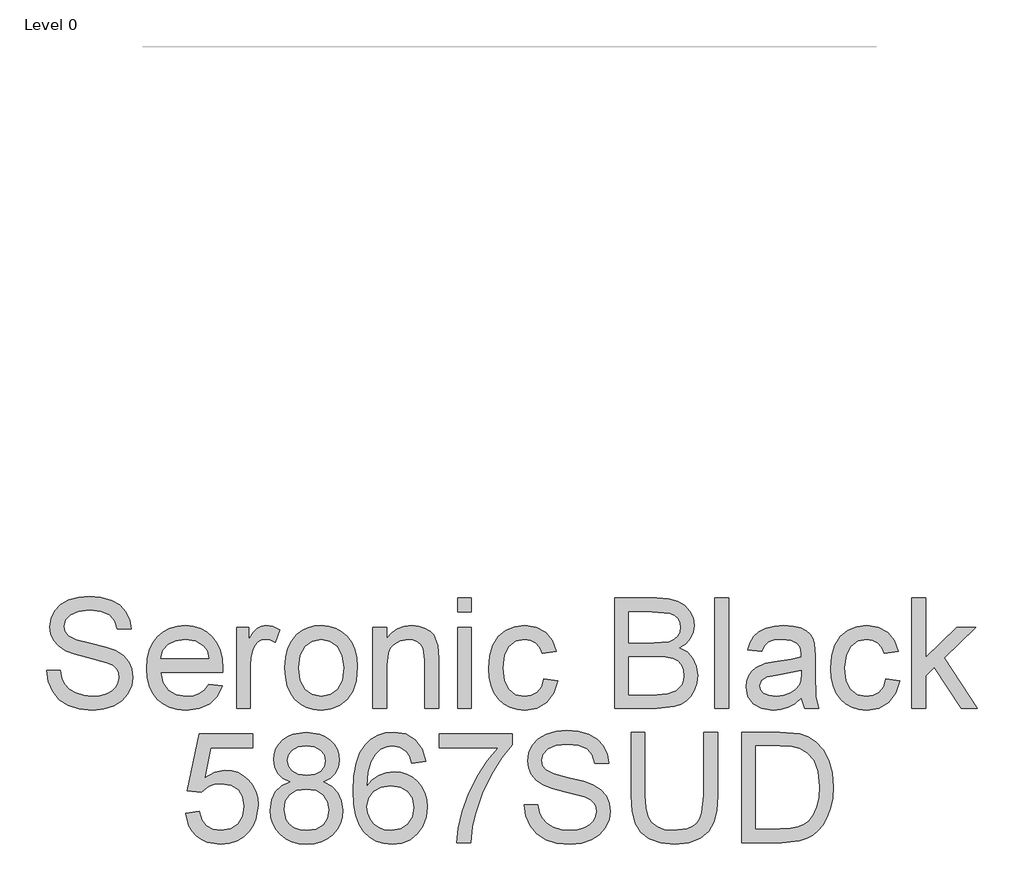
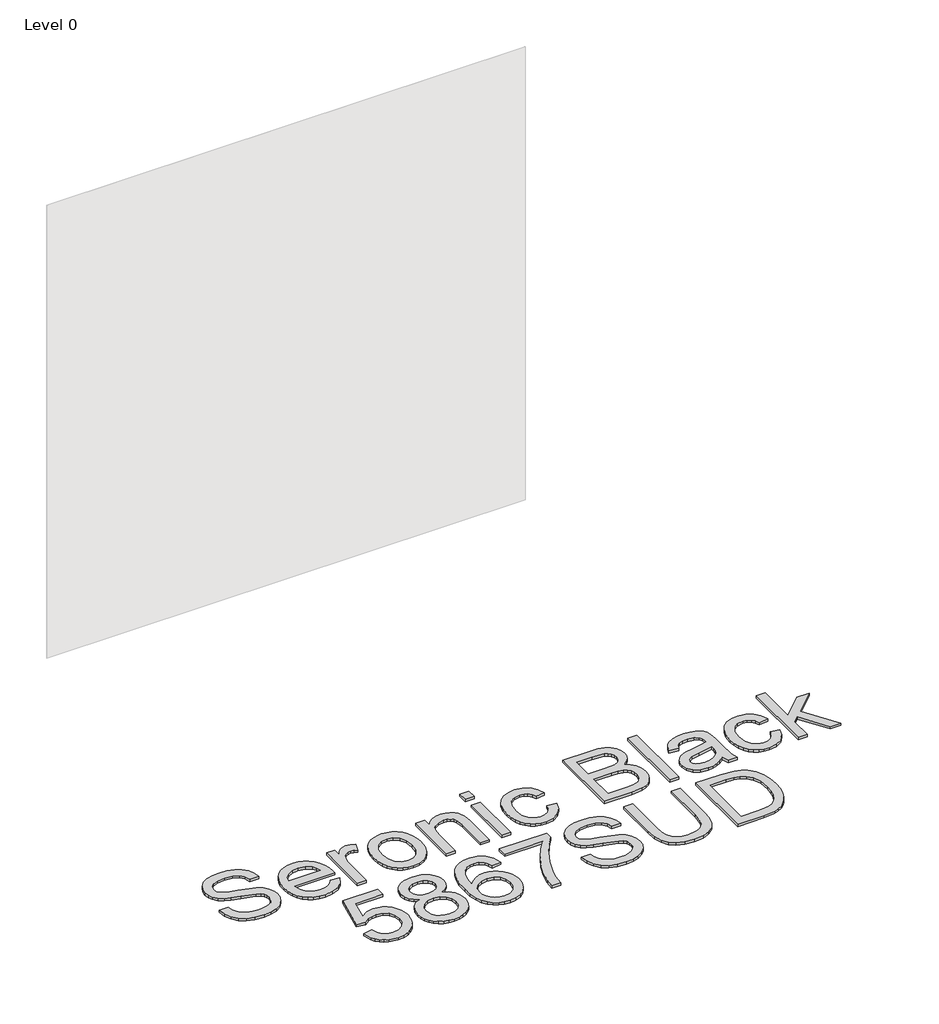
# One storey, part 8 of 29: 1 proxy.
"""IFC4 building model written with IfcOpenShell, lengths in millimetres."""

import ifcopenshell
import ifcopenshell.guid

model = None  # the IFC model being written
_history = None  # IfcOwnerHistory: only IFC2X3 demands one
_inside = {}  # id of a spatial element -> (the spatial element, [elements in it])
_under = {}  # id of a project, library or spatial element -> (it, [spatial elements below it])
_declared = {}  # id of a project -> (the project, [libraries it declares])
_typed = {}  # id of a type object -> (the type object, [elements of that type])
_made_of = {}  # id of a material, layer set ... -> (it, [elements and type objects made of it])


def new_model(schema):
    """Start an empty IFC model of exactly this schema.

    Asked for "IFC4X3", IfcOpenShell would pick the latest addendum, in which some entities
    have other attributes; the version numbers below select the first issue.
    IFC2X3 requires an IfcOwnerHistory on every rooted entity: one is made here for all.
    """
    global model, _history
    if schema == "IFC4X3":
        model = ifcopenshell.file(schema_version=(4, 3, 0, 0))
    else:
        model = ifcopenshell.file(schema=schema)
    _inside.clear()
    _under.clear()
    _declared.clear()
    _typed.clear()
    _made_of.clear()
    _history = None
    if model.schema == "IFC2X3":
        org = make("IfcOrganization", Name="unknown")
        user = make(
            "IfcPersonAndOrganization",
            ThePerson=make("IfcPerson", FamilyName="unknown"),
            TheOrganization=org,
        )
        app = make(
            "IfcApplication",
            ApplicationDeveloper=org,
            Version="unknown",
            ApplicationFullName="unknown",
            ApplicationIdentifier="unknown",
        )
        _history = make(
            "IfcOwnerHistory",
            OwningUser=user,
            OwningApplication=app,
            ChangeAction="ADDED",
            CreationDate=0,
        )
    return model


def make(cls, **values):
    """One entity of the class cls with the attributes given. An attribute that is None is left unset."""
    return model.create_entity(
        cls, **{name: value for name, value in values.items() if value is not None}
    )


def rooted(cls, **values):
    """An entity with a GlobalId (a new one), such as an element, a storey or a relation."""
    return make(cls, GlobalId=ifcopenshell.guid.new(), OwnerHistory=_history, **values)


def si_unit(unit_type, name, prefix=None):
    """IfcSIUnit, for example si_unit("LENGTHUNIT", "METRE", prefix="MILLI")."""
    return make("IfcSIUnit", UnitType=unit_type, Prefix=prefix, Name=name)


def assignment(units):
    """IfcUnitAssignment: the units of a project."""
    return None if units is None else make("IfcUnitAssignment", Units=units)


def point(xyz):
    """IfcCartesianPoint."""
    return None if xyz is None else make("IfcCartesianPoint", Coordinates=xyz)


def direction(xyz):
    """IfcDirection."""
    return None if xyz is None else make("IfcDirection", DirectionRatios=xyz)


def frame(location, z_axis=None, x_axis=None):
    """IfcAxis2Placement3D, a coordinate frame: its origin and axes. An axis left out is left unset."""
    return make(
        "IfcAxis2Placement3D",
        Location=point(location),
        Axis=direction(z_axis),
        RefDirection=direction(x_axis),
    )


def origin():
    """The frame at (0, 0, 0) with its axes left unset."""
    return frame((0.0, 0.0, 0.0))


def origin_with_axes():
    """The frame at (0, 0, 0) with the z axis (0, 0, 1) and the x axis (1, 0, 0) written out."""
    return frame((0.0, 0.0, 0.0), z_axis=(0.0, 0.0, 1.0), x_axis=(1.0, 0.0, 0.0))


def place(relative_to, where):
    """IfcLocalPlacement: puts the frame where relative to a parent placement (None: the world)."""
    return make(
        "IfcLocalPlacement", PlacementRelTo=relative_to, RelativePlacement=where
    )


def context(
    kind, dimensions, precision=None, world=None, true_north=None, identifier=None
):
    """IfcGeometricRepresentationContext, for example the 3D "Model" context."""
    return make(
        "IfcGeometricRepresentationContext",
        ContextIdentifier=identifier,
        ContextType=kind,
        CoordinateSpaceDimension=dimensions,
        Precision=precision,
        WorldCoordinateSystem=world,
        TrueNorth=true_north,
    )


def project(units=None, contexts=None):
    """IfcProject with its units and contexts."""
    return rooted(
        "IfcProject",
        Name="project",
        RepresentationContexts=contexts,
        UnitsInContext=assignment(units),
    )


def spatial(cls, under=None, at=None, **own):
    """A site, building, storey or space (cls), placed at a placement, below another one or the project."""
    s = rooted(cls, ObjectPlacement=at, **own)
    if under is not None:
        _under.setdefault(under.id(), (under, []))[1].append(s)
    return s


def polyline(points):
    """IfcPolyline through the points."""
    return make("IfcPolyline", Points=[point(p) for p in points])


def outline(outer, holes=None, kind="AREA"):
    """IfcArbitraryClosedProfileDef: a profile drawn as a closed curve; with holes, ...WithVoids."""
    if holes is None:
        return make("IfcArbitraryClosedProfileDef", ProfileType=kind, OuterCurve=outer)
    return make(
        "IfcArbitraryProfileDefWithVoids",
        ProfileType=kind,
        OuterCurve=outer,
        InnerCurves=holes,
    )


def extrude(swept, where, along, depth):
    """IfcExtrudedAreaSolid: the profile swept, set in the frame where, extruded along a direction by depth."""
    return make(
        "IfcExtrudedAreaSolid",
        SweptArea=swept,
        Position=where,
        ExtrudedDirection=direction(along),
        Depth=depth,
    )


def shape(context_of_items, identifier, shape_type, items):
    """IfcShapeRepresentation: the items that make up one representation, for example the "Body"."""
    return make(
        "IfcShapeRepresentation",
        ContextOfItems=context_of_items,
        RepresentationIdentifier=identifier,
        RepresentationType=shape_type,
        Items=items,
    )


def made_of(thing, what):
    """Note that an element or type object is made of a material, layer set ...; save() writes the relation."""
    if what is not None:
        _made_of.setdefault(what.id(), (what, []))[1].append(thing)
    return thing


def element(
    cls,
    number,
    at=None,
    inside=None,
    cuts=None,
    type_object=None,
    material=None,
    context=None,
    identifier="Body",
    shape_type=None,
    held_by="IfcProductDefinitionShape",
    body=None,
    shapes=None,
    **own,
):
    """One element of the class cls, such as IfcWall. Its Tag is "e" and its number.

    at: its placement. inside: the storey or other place that contains it. cuts: it is an
    opening in that element (IfcRelVoidsElement). A single representation is given by context,
    identifier, shape_type and body (its items); several are given by shapes. held_by: the class
    of the entity that holds the representations. save() writes the other relations.
    """
    e = rooted(cls, Tag="e%d" % number, ObjectPlacement=at, **own)
    if body is not None:
        shapes = [shape(context, identifier, shape_type, body)]
    if shapes is not None:
        e.Representation = make(held_by, Representations=shapes)
    if inside is not None:
        _inside.setdefault(inside.id(), (inside, []))[1].append(e)
    if cuts is not None:
        rooted(
            "IfcRelVoidsElement", RelatingBuildingElement=cuts, RelatedOpeningElement=e
        )
    if type_object is not None:
        _typed.setdefault(type_object.id(), (type_object, []))[1].append(e)
    return made_of(e, material)


def aggregate(whole, parts):
    """IfcRelAggregates: a whole, such as a stair, and the parts it consists of."""
    return rooted("IfcRelAggregates", RelatingObject=whole, RelatedObjects=parts)


def save(model, path):
    """Write the relations noted so far, then the file.

    IfcRelAggregates (storeys below a building ...), IfcRelContainedInSpatialStructure (elements
    in a storey), IfcRelDefinesByType, IfcRelAssociatesMaterial and IfcRelDeclares: one each for
    every whole, place, type object, material and project.
    """
    for whole, parts in _under.values():
        aggregate(whole, parts)
    for where, things in _inside.values():
        rooted(
            "IfcRelContainedInSpatialStructure",
            RelatedElements=things,
            RelatingStructure=where,
        )
    for kind, things in _typed.values():
        rooted("IfcRelDefinesByType", RelatedObjects=things, RelatingType=kind)
    for what, things in _made_of.values():
        rooted("IfcRelAssociatesMaterial", RelatedObjects=things, RelatingMaterial=what)
    for by, libraries in _declared.values():
        rooted("IfcRelDeclares", RelatingContext=by, RelatedDefinitions=libraries)
    model.write(path)


model = new_model("IFC4")

# Units and contexts
model_context = context("Model", 3, world=origin())
ifc_project = project(units=[si_unit("LENGTHUNIT", "METRE", prefix="MILLI")], contexts=[model_context])

# Site, building, storey
site = spatial("IfcSite", under=ifc_project)
building = spatial("IfcBuilding", under=site)
storey = spatial("IfcBuildingStorey", under=building, Name="Level 0", Elevation=0.0)

# Proxy
placement = place(None, origin())
element("IfcBuildingElementProxy", 1, Name="300mm Arial", ObjectType="300mm Arial", at=placement, inside=storey, context=model_context, shape_type="SweptSolid", body=[
    extrude(outline(polyline([(-10712.6404526, -11909.2649241), (-10674.9693363, -11909.2649241), (-10670.6467228, -11930.1698185), (-10662.8292304, -11946.9728286), (-10650.6339423, -11960.308551), (-10633.1779416, -11970.8115819), (-10611.8407859, -11977.6265959), (-10588.0020326, -11979.8982672), (-10567.0143648, -11978.1784189), (-10548.6386591, -11973.0188739), (-10533.7486354, -11964.8518936), (-10523.2180132, -11954.1097394), (-10516.9548223, -11941.7764955), (-10514.867092, -11928.8362463), (-10516.4305904, -11916.2270909), (-10521.1210859, -11905.3285868), (-10530.6492295, -11896.0303694), (-10546.7256727, -11888.222074), (-10601.5768782, -11873.837888), (-10637.5833285, -11864.3189414), (-10660.6219384, -11855.2598472), (-10679.3747231, -11842.5863125), (-10692.6644602, -11827.2272392), (-10700.5831202, -11809.5137211), (-10703.2226735, -11789.7768521), (-10699.9577208, -11767.7131294), (-10690.1628627, -11747.1393289), (-10674.0956165, -11729.7017223), (-10652.0134998, -11717.0465817), (-10625.507602, -11709.3486509), (-10596.1690129, -11706.782674), (-10564.3840085, -11709.4682126), (-10536.5721297, -11717.5248283), (-10513.7266578, -11730.7869742), (-10496.8408742, -11749.0891034), (-10486.1539022, -11771.2907818), (-10481.9048652, -11796.2515752), (-10519.5759815, -11796.2515752), (-10526.492163, -11773.7739853), (-10540.9131372, -11757.5503893), (-10563.4459094, -11747.7279401), (-10594.6974849, -11744.4537903), (-10626.6848244, -11747.6911519), (-10648.6289854, -11757.4032365), (-10661.3209142, -11771.695452), (-10665.5515572, -11788.6732061), (-10662.5533189, -11803.1493626), (-10653.5586041, -11814.7928278), (-10632.2950248, -11825.2038882), (-10592.0487345, -11835.8356779), (-10550.5148573, -11845.9340387), (-10525.388517, -11854.7448125), (-10503.9134055, -11868.4116286), (-10488.9314113, -11885.2790181), (-10480.1298346, -11905.1630399), (-10477.1959756, -11927.8797531), (-10480.571293, -11951.102304), (-10490.6972449, -11972.9452975), (-10507.1599642, -11991.7440675), (-10529.5455836, -12005.8339479), (-10556.4653486, -12014.6355246), (-10586.5305046, -12017.5693835), (-10623.4382658, -12014.4055984), (-10653.8161215, -12004.9142429), (-10678.0135598, -11989.0585289), (-10696.3800684, -11966.8016682), (-10708.1706863, -11939.6887651), (-10712.6404526, -11909.2649241)])), origin_with_axes(), (0.0, 0.0, 1.0), 10.0),
    extrude(outline(polyline([(-10270.4462944, -11946.9360404), (-10233.510942, -11951.64493), (-10246.8190732, -11979.4752029), (-10268.0550614, -12000.2789297), (-10296.74066, -12013.2467701), (-10332.3976223, -12017.5693835), (-10355.7719246, -12015.7046817), (-10376.5986441, -12010.1105761), (-10394.8777807, -12000.7870668), (-10410.6093345, -11987.7341537), (-10423.2598766, -11971.3151204), (-10432.2959781, -11951.8932503), (-10437.717639, -11929.4685435), (-10439.5248593, -11904.0409998), (-10437.6992449, -11877.7512327), (-10432.2224017, -11854.5792656), (-10423.0943297, -11834.5250983), (-10410.3150289, -11817.5887309), (-10394.6248618, -11804.133447), (-10376.764191, -11794.5225298), (-10356.7330163, -11788.7559796), (-10334.5313379, -11786.8337961), (-10313.0447301, -11788.751381), (-10293.613663, -11794.5041357), (-10276.2381365, -11804.0920602), (-10260.9181507, -11817.5151545), (-10248.4124621, -11834.4147337), (-10239.4798274, -11854.4321128), (-10234.1202466, -11877.5672917), (-10232.3337197, -11903.8202706), (-10232.5544489, -11913.9738137), (-10401.853743, -11913.9738137), (-10395.3330347, -11942.1719686), (-10380.1854935, -11962.902119), (-10358.324106, -11975.6492302), (-10331.6618584, -11979.8982672), (-10311.6122896, -11977.9300985), (-10294.726506, -11972.0255925), (-10281.0045076, -11961.8168672), (-10270.4462944, -11946.9360404)]), holes=[polyline([(-10401.853743, -11876.3026974), (-10270.004836, -11876.3026974), (-10275.1000016, -11856.4002814), (-10285.0879978, -11842.1632482), (-10307.0505529, -11828.9194964), (-10334.6784907, -11824.5049125), (-10360.0715454, -11828.0273826), (-10381.0684103, -11838.5947929), (-10395.6641285, -11855.0667092), (-10401.853743, -11876.3026974)])]), origin_with_axes(), (0.0, 0.0, 1.0), 10.0),
    extrude(outline(polyline([(-10194.6626034, -12012.860494), (-10194.6626034, -11791.5426857), (-10161.7003766, -11791.5426857), (-10161.7003766, -11824.2841833), (-10149.5234825, -11805.3014723), (-10138.3030817, -11794.1178596), (-10127.0458926, -11788.654812), (-10114.758634, -11786.8337961), (-10095.9966522, -11789.7400639), (-10076.9403649, -11798.4588672), (-10089.5219291, -11832.2304343), (-10102.765681, -11826.4362929), (-10116.0094328, -11824.5049125), (-10127.2574248, -11826.3627165), (-10137.3098003, -11831.9361288), (-10145.4307953, -11840.8020848), (-10150.8846459, -11852.5375205), (-10155.4647768, -11873.5803706), (-10156.991487, -11896.5362071), (-10156.991487, -12012.860494), (-10194.6626034, -12012.860494)])), origin_with_axes(), (0.0, 0.0, 1.0), 10.0),
    extrude(outline(polyline([(-10062.8136963, -11902.2015898), (-10060.7765497, -11873.5389839), (-10054.6651101, -11848.8403064), (-10044.4793773, -11828.1055575), (-10030.2193515, -11811.334737), (-10015.8627566, -11800.6155754), (-10000.0162397, -11792.9590314), (-9982.6798007, -11788.3651049), (-9963.8534396, -11786.8337961), (-9943.0704061, -11788.698498), (-9924.2785339, -11794.2926036), (-9907.4778231, -11803.6161129), (-9892.6682735, -11816.669026), (-9880.5810507, -11833.0098843), (-9871.9473201, -11852.1972296), (-9866.7670818, -11874.2310619), (-9865.0403357, -11899.1113811), (-9868.0937562, -11937.1687735), (-9877.2540179, -11966.1394806), (-9892.2544063, -11987.8353213), (-9912.8282068, -12004.0681143), (-9937.2647684, -12014.1940662), (-9963.8534396, -12017.5693835), (-9984.9399757, -12015.7115794), (-10003.9065918, -12010.1381672), (-10020.7532879, -12000.8491468), (-10035.480064, -11987.8445183), (-10047.4385281, -11971.3450108), (-10055.9802882, -11951.5713536), (-10061.1053443, -11928.5235466), (-10062.8136963, -11902.2015898)]), holes=[polyline([(-10025.14258, -11902.1280134), (-10020.7831783, -11936.2214773), (-10007.7049734, -11960.5108861), (-9988.0232867, -11975.0514219), (-9963.8534396, -11979.8982672), (-9939.7939571, -11975.0238308), (-9920.1490586, -11960.4005215), (-9907.0708536, -11935.789216), (-9902.711452, -11900.950791), (-9907.0984448, -11867.8506085), (-9920.2594232, -11843.8922936), (-9939.9319128, -11829.3517577), (-9963.8534396, -11824.5049125), (-9988.0232867, -11829.3333636), (-10007.7049734, -11843.8187172), (-10020.7831783, -11868.0529436), (-10025.14258, -11902.1280134)])]), origin_with_axes(), (0.0, 0.0, 1.0), 10.0),
    extrude(outline(polyline([(-9822.6603298, -12012.860494), (-9822.6603298, -11791.5426857), (-9784.9892135, -11791.5426857), (-9784.9892135, -11822.4447733), (-9771.9018115, -11806.8649708), (-9756.1840533, -11795.7365404), (-9737.8359388, -11789.0594822), (-9716.857468, -11786.8337961), (-9698.2886243, -11788.6272209), (-9681.2832791, -11794.0074951), (-9667.1014282, -11802.303234), (-9657.0030674, -11812.8430532), (-9645.7090902, -11840.5445674), (-9643.7225274, -11876.964885), (-9643.7225274, -12012.860494), (-9681.3936437, -12012.860494), (-9681.3936437, -11882.0416565), (-9685.7346512, -11848.7115477), (-9691.7403248, -11838.7879309), (-9701.0753304, -11831.0900002), (-9713.0406923, -11826.1511844), (-9726.9374347, -11824.5049125), (-9749.0011573, -11828.2021265), (-9767.8091243, -11839.2937687), (-9775.3254134, -11848.3482643), (-9780.6941912, -11860.7228949), (-9784.9892135, -11895.4325611), (-9784.9892135, -12012.860494), (-9822.6603298, -12012.860494)])), origin_with_axes(), (0.0, 0.0, 1.0), 10.0),
    extrude(outline(polyline([(-9591.9247425, -11749.1626798), (-9591.9247425, -11711.4915635), (-9554.2536261, -11711.4915635), (-9554.2536261, -11749.1626798), (-9591.9247425, -11749.1626798)])), origin_with_axes(), (0.0, 0.0, 1.0), 10.0),
    extrude(outline(polyline([(-9591.9247425, -12012.860494), (-9591.9247425, -11791.5426857), (-9554.2536261, -11791.5426857), (-9554.2536261, -12012.860494), (-9591.9247425, -12012.860494)])), origin_with_axes(), (0.0, 0.0, 1.0), 10.0),
    extrude(outline(polyline([(-9356.4802655, -11932.8093718), (-9318.8091492, -11937.5182614), (-9329.3121802, -11971.0231141), (-9349.0490492, -11996.3425924), (-9376.1619523, -12012.2626857), (-9408.7930853, -12017.5693835), (-9429.9210081, -12015.7184772), (-9448.8646316, -12010.1657584), (-9465.6239557, -12000.9112269), (-9480.1989805, -11987.9548829), (-9491.9964963, -11971.5404481), (-9500.4232932, -11951.9116444), (-9505.4793714, -11929.0684718), (-9507.1647308, -11903.0109302), (-9504.2860542, -11869.4876834), (-9495.6500243, -11840.4342028), (-9481.1186855, -11816.9725286), (-9460.554082, -11800.2247008), (-9435.9519736, -11790.1815223), (-9409.30812, -11786.8337961), (-9377.4771304, -11791.4323211), (-9352.0288934, -11805.2278959), (-9333.7727494, -11827.4847566), (-9323.5180388, -11857.4671392), (-9361.1891551, -11862.1760288), (-9368.0225631, -11845.7409006), (-9378.6635499, -11833.9594797), (-9392.523504, -11826.8685543), (-9409.0138145, -11824.5049125), (-9433.3584055, -11829.1586197), (-9452.6814073, -11843.1197414), (-9465.2905627, -11867.1424357), (-9469.4936145, -11901.9808606), (-9465.3825332, -11937.2883351), (-9453.0492893, -11961.3938029), (-9434.0757754, -11975.2721511), (-9410.043884, -11979.8982672), (-9390.5369412, -11977.0103936), (-9374.5432715, -11968.3467726), (-9362.9090034, -11953.6866751), (-9356.4802655, -11932.8093718)])), origin_with_axes(), (0.0, 0.0, 1.0), 10.0),
    extrude(outline(polyline([(-9163.4157945, -12012.860494), (-9163.4157945, -11711.4915635), (-9048.4158828, -11711.4915635), (-9016.7872282, -11713.7080526), (-8992.0931493, -11720.3575196), (-8973.1656207, -11731.6055116), (-8958.836617, -11747.6175755), (-8949.814311, -11766.4531336), (-8946.8068757, -11786.1716086), (-8949.3360644, -11804.317388), (-8956.9236306, -11821.3779155), (-8969.6247565, -11836.3047274), (-8987.4946244, -11848.0493601), (-8966.1482716, -11859.1961846), (-8950.3753311, -11876.1555446), (-8940.6356552, -11897.8054), (-8937.3890966, -11923.0237108), (-8939.6055857, -11944.0389697), (-8946.2550527, -11963.5275184), (-8956.1786695, -11980.1006023), (-8968.2176078, -11992.3694669), (-8982.9604788, -12001.253817), (-9000.9958936, -12007.6733578), (-9049.2987996, -12012.860494), (-9163.4157945, -12012.860494)]), holes=[polyline([(-9125.7446782, -11833.9226915), (-9056.9507451, -11833.9226915), (-9016.7780312, -11830.68533), (-9002.7157419, -11825.1027207), (-8992.6081841, -11816.7426024), (-8986.51054, -11805.7337336), (-8984.477992, -11792.2048733), (-8986.3725843, -11779.071486), (-8992.0563611, -11767.630356), (-9001.2718051, -11758.7000206), (-9013.7613988, -11753.0990172), (-9062.1746694, -11749.1626798), (-9125.7446782, -11749.1626798), (-9125.7446782, -11833.9226915)]), polyline([(-9125.7446782, -11975.1893777), (-9048.4894592, -11975.1893777), (-9020.5304275, -11973.7178497), (-8996.8756153, -11965.5140812), (-8981.2038423, -11948.7754504), (-8976.5961203, -11936.9480443), (-8975.0602129, -11923.3915928), (-8976.8628347, -11907.6462434), (-8982.2707, -11894.1081859), (-8991.7160703, -11883.5223815), (-9005.6312067, -11876.6337912), (-9025.3404846, -11872.8538037), (-9052.1682791, -11871.5938078), (-9125.7446782, -11871.5938078), (-9125.7446782, -11975.1893777)])]), origin_with_axes(), (0.0, 0.0, 1.0), 10.0),
    extrude(outline(polyline([(-8890.3002013, -12012.860494), (-8890.3002013, -11711.4915635), (-8852.6290849, -11711.4915635), (-8852.6290849, -12012.860494), (-8890.3002013, -12012.860494)])), origin_with_axes(), (0.0, 0.0, 1.0), 10.0),
    extrude(outline(polyline([(-8654.8557243, -11984.6071568), (-8672.854351, -12000.0398064), (-8691.3864065, -12010.1381672), (-8710.8749552, -12015.7115794), (-8731.7430613, -12017.5693835), (-8763.2245631, -12013.0996173), (-8786.447114, -11999.6903186), (-8800.7669207, -11979.3280501), (-8805.5401896, -11953.9993748), (-8803.7375678, -11938.3827841), (-8798.3297025, -11924.2009331), (-8789.9879782, -11912.0608273), (-8779.3837797, -11902.5694718), (-8753.0066407, -11890.2086368), (-8720.4122959, -11884.5432541), (-8681.895051, -11878.5835657), (-8655.0764535, -11871.5938078), (-8654.8557243, -11863.2060983), (-8657.4492924, -11846.3938912), (-8665.2299966, -11835.3942195), (-8682.630815, -11827.2272392), (-8706.8742385, -11824.5049125), (-8729.3150402, -11826.3167313), (-8744.9868132, -11831.7521878), (-8755.6737851, -11841.8045633), (-8763.1601837, -11857.4671392), (-8800.8313, -11852.7582497), (-8794.2921976, -11832.156858), (-8784.5341276, -11815.9700502), (-8770.6465823, -11803.590821), (-8751.7190537, -11794.4121652), (-8728.5700791, -11788.7283884), (-8702.0181961, -11786.8337961), (-8676.551565, -11788.5076592), (-8656.3640405, -11793.5292485), (-8641.142923, -11801.0800264), (-8630.5755127, -11810.3414556), (-8623.5673607, -11821.7917827), (-8619.024018, -11835.9092543), (-8617.184608, -11868.8714811), (-8617.184608, -11915.7396473), (-8615.2716217, -11981.1858542), (-8607.766829, -12012.860494), (-8645.4379453, -12012.860494), (-8654.8557243, -11984.6071568)]), holes=[polyline([(-8654.8557243, -11909.2649241), (-8715.6298299, -11920.8164188), (-8748.0402337, -11926.9232599), (-8762.7187253, -11936.8560738), (-8767.8690733, -11951.3506244), (-8765.063973, -11962.5526311), (-8756.6486724, -11971.7312869), (-8742.8071123, -11977.8565221), (-8723.7232338, -11979.8982672), (-8703.4897241, -11977.64499), (-8685.6106591, -11970.8851583), (-8671.1161085, -11960.9247533), (-8661.0361419, -11949.069756), (-8656.5663756, -11936.8560738), (-8655.0764535, -11919.933502), (-8654.8557243, -11909.2649241)])]), origin_with_axes(), (0.0, 0.0, 1.0), 10.0),
    extrude(outline(polyline([(-8424.120137, -11932.8093718), (-8386.4490207, -11937.5182614), (-8396.9520516, -11971.0231141), (-8416.6889207, -11996.3425924), (-8443.8018237, -12012.2626857), (-8476.4329567, -12017.5693835), (-8497.5608795, -12015.7184772), (-8516.504503, -12010.1657584), (-8533.2638271, -12000.9112269), (-8547.8388519, -11987.9548829), (-8559.6363677, -11971.5404481), (-8568.0631646, -11951.9116444), (-8573.1192428, -11929.0684718), (-8574.8046022, -11903.0109302), (-8571.9259256, -11869.4876834), (-8563.2898957, -11840.4342028), (-8548.7585569, -11816.9725286), (-8528.1939534, -11800.2247008), (-8503.591845, -11790.1815223), (-8476.9479915, -11786.8337961), (-8445.1170018, -11791.4323211), (-8419.6687648, -11805.2278959), (-8401.4126208, -11827.4847566), (-8391.1579102, -11857.4671392), (-8428.8290265, -11862.1760288), (-8435.6624346, -11845.7409006), (-8446.3034213, -11833.9594797), (-8460.1633754, -11826.8685543), (-8476.6536859, -11824.5049125), (-8500.9982769, -11829.1586197), (-8520.3212787, -11843.1197414), (-8532.9304341, -11867.1424357), (-8537.1334859, -11901.9808606), (-8533.0224046, -11937.2883351), (-8520.6891607, -11961.3938029), (-8501.7156468, -11975.2721511), (-8477.6837555, -11979.8982672), (-8458.1768127, -11977.0103936), (-8442.1831429, -11968.3467726), (-8430.5488748, -11953.6866751), (-8424.120137, -11932.8093718)])), origin_with_axes(), (0.0, 0.0, 1.0), 10.0),
    extrude(outline(polyline([(-8353.4867939, -12012.860494), (-8353.4867939, -11711.4915635), (-8315.8156776, -11711.4915635), (-8315.8156776, -11873.4332178), (-8231.3499715, -11791.5426857), (-8179.257881, -11791.5426857), (-8264.7536567, -11874.4632874), (-8174.5489914, -12012.860494), (-8218.5476781, -12012.860494), (-8291.7561951, -11900.6564855), (-8315.8156776, -11923.9802039), (-8315.8156776, -12012.860494), (-8353.4867939, -12012.860494)])), origin_with_axes(), (0.0, 0.0, 1.0), 10.0),
    extrude(outline(polyline([(-10333.5748447, -12298.7338254), (-10295.9037284, -12294.0249358), (-10288.9875469, -12316.6404815), (-10276.9210175, -12332.8364863), (-10259.7593224, -12342.5761621), (-10237.557644, -12345.8227207), (-10210.5551055, -12341.3069693), (-10190.3215958, -12327.7597148), (-10177.6848493, -12306.7444558), (-10173.4726004, -12279.8246908), (-10177.4181348, -12254.4776213), (-10189.254738, -12235.0902402), (-10209.0743805, -12222.7845875), (-10236.9690328, -12218.6827032), (-10255.2435709, -12220.3197781), (-10270.0416242, -12225.2310027), (-10291.1948389, -12242.2271509), (-10328.8659552, -12237.5182614), (-10295.9037284, -12082.1249066), (-10149.9281527, -12082.1249066), (-10149.9281527, -12119.7960229), (-10265.4430992, -12119.7960229), (-10281.5563306, -12202.790201), (-10254.6457627, -12186.4562404), (-10226.4476077, -12181.0115869), (-10208.1017925, -12182.6992456), (-10191.2504978, -12187.7622215), (-10175.8937238, -12196.2005148), (-10162.0314704, -12208.0141254), (-10150.5558514, -12222.4810848), (-10142.3589807, -12238.8794248), (-10137.4408583, -12257.2091452), (-10135.8014841, -12277.470246), (-10141.7059901, -12315.1413624), (-10149.0866227, -12331.9351754), (-10159.4195082, -12347.3678251), (-10175.0728871, -12363.1729553), (-10193.3382282, -12374.4623341), (-10214.2155314, -12381.2359613), (-10237.7047968, -12383.4938371), (-10274.7045285, -12377.6904986), (-10290.3831992, -12370.4363255), (-10304.1810733, -12360.2804832), (-10315.6612908, -12347.7288093), (-10324.3869919, -12333.2871418), (-10333.5748447, -12298.7338254)])), origin_with_axes(), (0.0, 0.0, 1.0), 10.0),
    extrude(outline(polyline([(-10047.9512637, -12212.7965913), (-10068.1203941, -12202.8637774), (-10082.2746538, -12189.3992964), (-10090.6347722, -12172.6790597), (-10093.4214783, -12152.9789789), (-10091.9039651, -12137.6153071), (-10087.3514254, -12123.5300252), (-10079.7638592, -12110.7231332), (-10069.1412666, -12099.1946312), (-10055.9940838, -12089.6664875), (-10040.8327471, -12082.8606706), (-10004.4676118, -12077.4160171), (-9967.8817474, -12082.9894293), (-9952.5548638, -12089.9561946), (-9939.2053459, -12099.709666), (-9928.3896152, -12111.4634957), (-9920.6640933, -12124.4313361), (-9916.0287802, -12138.613187), (-9914.4836758, -12154.0090485), (-9917.2335937, -12173.0745329), (-9925.4833475, -12189.509661), (-9939.3249076, -12202.8913686), (-9958.8502444, -12212.7965913), (-9935.6644817, -12224.7435591), (-9918.7878952, -12242.3375155), (-9908.4963964, -12264.732332), (-9905.0658967, -12291.0818799), (-9906.767351, -12309.8714528), (-9911.8717137, -12327.0975272), (-9920.3789848, -12342.7601031), (-9932.2891644, -12356.8591806), (-9946.9768531, -12368.5118428), (-9963.8166514, -12376.8351729), (-9982.8085594, -12381.829171), (-10003.9525771, -12383.4938371), (-10025.0965947, -12381.8222732), (-10044.0885027, -12376.8075818), (-10060.9283011, -12368.4497627), (-10075.6159897, -12356.748816), (-10087.5261693, -12342.5508703), (-10096.0334404, -12326.702054), (-10101.1378031, -12309.2023674), (-10102.8392574, -12290.0518103), (-10099.270802, -12262.6813898), (-10088.5654359, -12240.1670117), (-10071.2749822, -12223.2812282), (-10047.9512637, -12212.7965913)]), holes=[polyline([(-10065.1681411, -12288.7274351), (-10058.8773589, -12317.0911369), (-10050.1677527, -12329.2588339), (-10036.6204982, -12338.317928), (-10020.3969022, -12343.9465226), (-10003.6582715, -12345.8227207), (-9978.0168964, -12341.8771864), (-9958.776668, -12330.0405832), (-9946.7469268, -12312.1155329), (-9942.7370131, -12289.9046575), (-9946.8756855, -12267.316703), (-9959.2917028, -12248.9961796), (-9978.9733896, -12236.8560738), (-10004.9090702, -12232.8093718), (-10030.1917604, -12236.8008915), (-10049.2388507, -12248.7754504), (-10061.1858185, -12266.7464859), (-10065.1681411, -12288.7274351)]), polyline([(-10055.750362, -12154.0826249), (-10052.4118329, -12170.52695), (-10042.3962455, -12183.6603373), (-10025.9979056, -12192.268776), (-10003.5111187, -12195.1382555), (-9981.5485635, -12192.2871701), (-9965.398544, -12183.7339137), (-9955.4657301, -12171.0419848), (-9952.1547921, -12155.774882), (-9955.5760947, -12139.9283651), (-9965.8400024, -12126.822569), (-9982.2107511, -12118.0209923), (-10003.9525771, -12115.0871334), (-10025.8323587, -12117.9566129), (-10042.1755164, -12126.5650516), (-10052.3566506, -12139.1834041), (-10055.750362, -12154.0826249)])]), origin_with_axes(), (0.0, 0.0, 1.0), 10.0),
    extrude(outline(polyline([(-9679.0391989, -12157.4671392), (-9716.7103152, -12162.1760288), (-9722.7803681, -12143.5060175), (-9730.9841366, -12130.7589064), (-9748.0722553, -12119.0050766), (-9768.7288293, -12115.0871334), (-9786.2400123, -12117.3680017), (-9802.7211257, -12124.2106069), (-9816.8753855, -12138.622384), (-9828.4360772, -12158.4604206), (-9836.2443725, -12186.5206198), (-9839.1414432, -12225.5988847), (-9824.0306903, -12207.9681401), (-9805.921699, -12195.5429257), (-9785.8261451, -12188.1760888), (-9764.7557038, -12185.7204764), (-9746.6559096, -12187.3989381), (-9729.954067, -12192.4343229), (-9714.650176, -12200.8266309), (-9700.7442366, -12212.5758621), (-9689.1881435, -12226.9830407), (-9680.9337912, -12243.349191), (-9675.9811798, -12261.6743129), (-9674.3303094, -12281.9584064), (-9677.4389122, -12308.9333537), (-9686.7647208, -12333.9401323), (-9701.5351829, -12355.1485293), (-9720.9777464, -12370.7283318), (-9744.2094944, -12380.3024607), (-9770.3475101, -12383.4938371), (-9792.8044067, -12381.3785156), (-9813.0862009, -12375.0325512), (-9831.1928929, -12364.4559438), (-9847.1244825, -12349.6486935), (-9860.1130162, -12329.9854009), (-9869.3905403, -12304.8406665), (-9874.9570547, -12274.2144904), (-9876.8125595, -12238.1068726), (-9874.7524203, -12197.6260575), (-9868.5720028, -12163.0773396), (-9858.271307, -12134.4607189), (-9843.8503328, -12111.7761954), (-9828.2199465, -12096.7436174), (-9810.0971597, -12086.0060617), (-9789.4819724, -12079.5635282), (-9766.3743846, -12077.4160171), (-9733.3201873, -12082.7319119), (-9706.8510777, -12098.6795964), (-9688.3098252, -12124.0082718), (-9679.0391989, -12157.4671392)]), holes=[polyline([(-9839.1414432, -12281.3697952), (-9836.9617424, -12298.0624407), (-9830.4226399, -12314.0009282), (-9820.2690969, -12327.7045325), (-9807.2460742, -12337.6925287), (-9791.528316, -12343.7901727), (-9773.2905661, -12345.8227207), (-9748.4309403, -12341.6104719), (-9728.8872093, -12328.9737254), (-9716.2228716, -12309.1080976), (-9712.0014257, -12283.2092052), (-9716.1676893, -12258.3495793), (-9728.6664801, -12239.3944595), (-9748.5413049, -12227.3923095), (-9774.8356705, -12223.3915928), (-9799.6585081, -12227.3923095), (-9820.4162497, -12239.3944595), (-9834.4601448, -12257.8897269), (-9839.1414432, -12281.3697952)])]), origin_with_axes(), (0.0, 0.0, 1.0), 10.0),
    extrude(outline(polyline([(-9641.3680826, -12119.7960229), (-9641.3680826, -12082.1249066), (-9443.594722, -12082.1249066), (-9443.594722, -12112.5855358), (-9471.7836799, -12148.2608923), (-9499.6967263, -12193.6299393), (-9524.3172288, -12244.5540045), (-9542.6285551, -12296.8944154), (-9551.6048758, -12336.0554538), (-9556.6080709, -12378.7849475), (-9594.2791872, -12378.7849475), (-9590.2048941, -12339.9550029), (-9579.30639, -12293.8042066), (-9561.8779805, -12244.8850983), (-9538.2139712, -12197.7502177), (-9510.5860333, -12155.1402856), (-9481.2658383, -12119.7960229), (-9641.3680826, -12119.7960229)])), origin_with_axes(), (0.0, 0.0, 1.0), 10.0),
    extrude(outline(polyline([(-9410.6324952, -12275.1893777), (-9372.9613789, -12275.1893777), (-9368.6387655, -12296.0942721), (-9360.8212731, -12312.8972822), (-9348.6259849, -12326.2330045), (-9331.1699843, -12336.7360355), (-9309.8328286, -12343.5510494), (-9285.9940753, -12345.8227207), (-9265.0064074, -12344.1028724), (-9246.6307018, -12338.9433274), (-9231.740678, -12330.7763471), (-9221.2100559, -12320.0341929), (-9214.9468649, -12307.700949), (-9212.8591346, -12294.7606998), (-9214.4226331, -12282.1515444), (-9219.1131285, -12271.2530403), (-9228.6412722, -12261.9548229), (-9244.7177154, -12254.1465276), (-9299.5689209, -12239.7623415), (-9335.5753712, -12230.2433949), (-9358.6139811, -12221.1843008), (-9377.3667658, -12208.510766), (-9390.6565029, -12193.1516928), (-9398.5751628, -12175.4381747), (-9401.2147162, -12155.7013056), (-9397.9497634, -12133.637583), (-9388.1549053, -12113.0637824), (-9372.0876592, -12095.6261758), (-9350.0055424, -12082.9710352), (-9323.4996447, -12075.2731044), (-9294.1610556, -12072.7071275), (-9262.3760512, -12075.3926661), (-9234.5641723, -12083.4492818), (-9211.7187004, -12096.7114277), (-9194.8329169, -12115.013557), (-9184.1459449, -12137.2152354), (-9179.8969079, -12162.1760288), (-9217.5680242, -12162.1760288), (-9224.4842057, -12139.6984389), (-9238.9051799, -12123.4748429), (-9261.4379521, -12113.6523936), (-9292.6895276, -12110.3782438), (-9324.6768671, -12113.6156054), (-9346.6210281, -12123.3276901), (-9359.3129569, -12137.6199056), (-9363.5435998, -12154.5976597), (-9360.5453616, -12169.0738162), (-9351.5506468, -12180.7172813), (-9330.2870675, -12191.1283418), (-9290.0407772, -12201.7601314), (-9248.5069, -12211.8584922), (-9223.3805597, -12220.669266), (-9201.9054482, -12234.3360821), (-9186.923454, -12251.2034716), (-9178.1218772, -12271.0874934), (-9175.1880183, -12293.8042066), (-9178.5633356, -12317.0267576), (-9188.6892875, -12338.869751), (-9205.1520068, -12357.668521), (-9227.5376262, -12371.7584014), (-9254.4573912, -12380.5599781), (-9284.5225473, -12383.4938371), (-9321.4303085, -12380.3300519), (-9351.8081642, -12370.8386964), (-9376.0056024, -12354.9829824), (-9394.372111, -12332.7261217), (-9406.162729, -12305.6132187), (-9410.6324952, -12275.1893777)])), origin_with_axes(), (0.0, 0.0, 1.0), 10.0),
    extrude(outline(polyline([(-8920.9079833, -12077.4160171), (-8883.2368669, -12077.4160171), (-8883.2368669, -12251.277048), (-8885.7936468, -12291.9923878), (-8893.4639864, -12323.3451308), (-8907.7929901, -12347.533372), (-8930.3257623, -12366.7552063), (-8961.1174853, -12379.3091794), (-9000.2233414, -12383.4938371), (-9038.4738719, -12379.8518053), (-9069.0540627, -12368.92571), (-9091.973111, -12351.0926303), (-9107.2402138, -12326.7296452), (-9115.8210613, -12294.052527), (-9118.6813439, -12251.277048), (-9118.6813439, -12077.4160171), (-9081.0102276, -12077.4160171), (-9081.0102276, -12249.9526728), (-9079.1524235, -12283.8070134), (-9073.5790113, -12307.3790523), (-9063.4806505, -12323.7038158), (-9048.0480008, -12335.8163305), (-9027.9248556, -12343.3211232), (-9003.7550086, -12345.8227207), (-8965.4400988, -12340.8747079), (-8951.0972995, -12334.6896919), (-8939.9642706, -12326.0306694), (-8931.6271449, -12313.8537754), (-8925.6720551, -12297.1151446), (-8920.9079833, -12249.9526728), (-8920.9079833, -12077.4160171)])), origin_with_axes(), (0.0, 0.0, 1.0), 10.0),
    extrude(outline(polyline([(-8817.3124134, -12378.7849475), (-8817.3124134, -12077.4160171), (-8713.3489616, -12077.4160171), (-8659.5646139, -12081.7570246), (-8635.5419196, -12090.12634), (-8615.2716217, -12103.3149095), (-8594.4311066, -12126.270746), (-8579.5870681, -12154.8183889), (-8570.7027179, -12188.406015), (-8567.7412679, -12226.4818015), (-8569.7462248, -12258.8278259), (-8575.7610954, -12287.2926953), (-8584.9213571, -12311.5269217), (-8596.3624871, -12331.1810173), (-8609.5326625, -12346.6964405), (-8623.8800603, -12358.5146496), (-8640.3519767, -12367.2794381), (-8659.8957077, -12373.6345996), (-8708.3457664, -12378.7849475), (-8817.3124134, -12378.7849475)]), holes=[polyline([(-8779.6412971, -12341.1138312), (-8712.9810796, -12341.1138312), (-8685.408324, -12339.7526678), (-8664.4942326, -12335.6691777), (-8648.712095, -12329.1024841), (-8636.535201, -12320.2917103), (-8623.447799, -12303.9853408), (-8613.6161527, -12282.8781114), (-8607.4633263, -12256.8780514), (-8605.4123842, -12225.8931903), (-8609.431495, -12184.8375597), (-8621.4888274, -12154.5240833), (-8639.303513, -12133.7019623), (-8660.5946835, -12121.1203981), (-8682.262933, -12116.5954496), (-8714.0111492, -12115.0871334), (-8779.6412971, -12115.0871334), (-8779.6412971, -12341.1138312)])]), origin_with_axes(), (0.0, 0.0, 1.0), 10.0),
])

save(model, "model.ifc")
